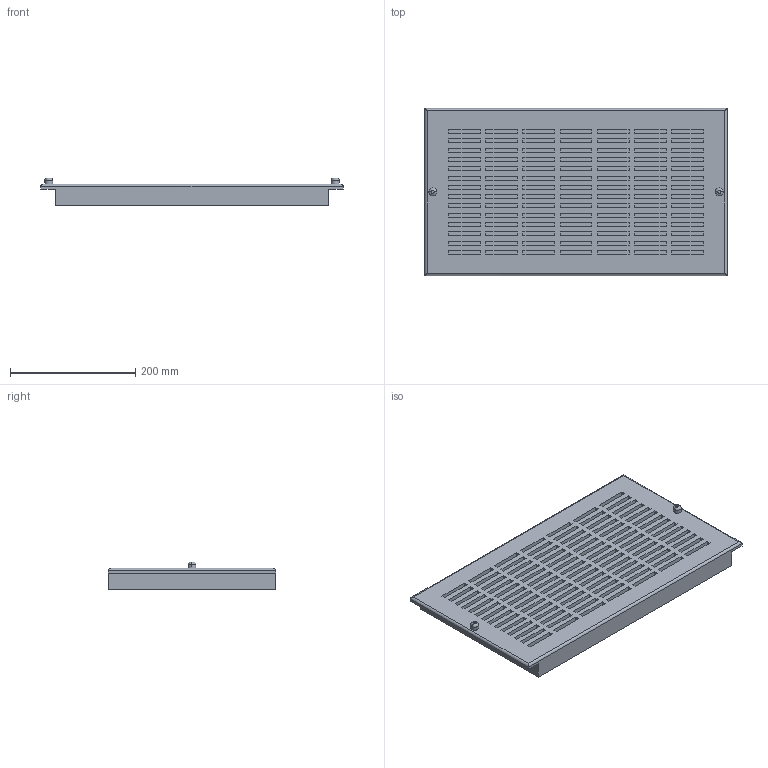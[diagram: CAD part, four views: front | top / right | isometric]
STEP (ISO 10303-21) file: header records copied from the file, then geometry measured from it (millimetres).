
FILE_DESCRIPTION (( 'STEP AP203' ), '1' );
FILE_NAME ('105g19.STEP', '2013-07-23T13:40:10', ( 'User' ), ( 'Pentair Inc' ), 'SwSTEP 2.0', 'SolidWorks 2010', '' );
FILE_SCHEMA (( 'CONFIG_CONTROL_DESIGN' ));
Length unit declared in the file: inch
Products named in the file (1): 105g19
Bounding box: 482.6 x 266.7 x 44.32 mm (x, y, z)
Volume: 3892062.7 mm3; surface area: 396315 mm2
Topology: 1 solids, 1 shells, 514 faces, 1228 edges, 816 vertices
Faces by surface type: plane 502, cylinder 8, torus 4
Entity records: 14643 total; most frequent: CARTESIAN_POINT 2571, ORIENTED_EDGE 2456, DIRECTION 2270, EDGE_CURVE 1228, LINE 1208, VECTOR 1208, VERTEX_POINT 816, EDGE_LOOP 614
